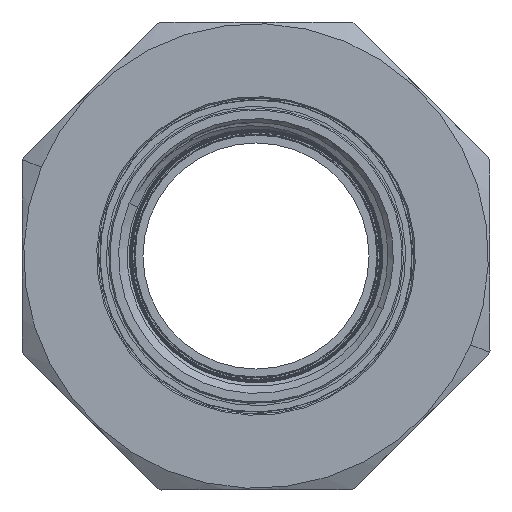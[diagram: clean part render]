
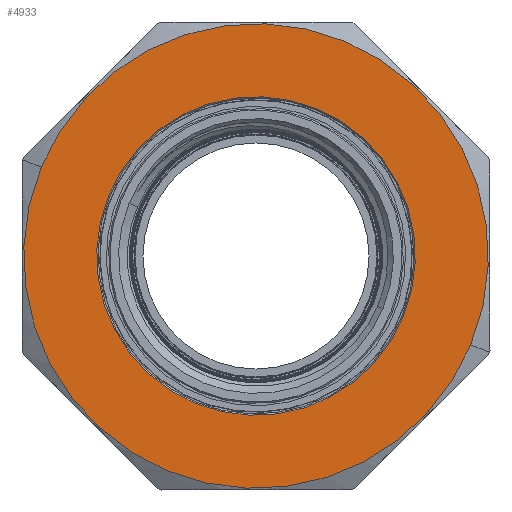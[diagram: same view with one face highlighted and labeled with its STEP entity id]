
A CAD part, left-side view. The second image highlights one B-rep face of the part: STEP entity #4933.
In plain terms, the highlighted planar face has unit normal (-1, 0, 0) as drawn and (1, 0, 0) by its records, which use the part's own axes.
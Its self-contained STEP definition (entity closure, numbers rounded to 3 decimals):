
#530 = EDGE_CURVE ( 'NONE', #4787, #4813, #2907, .T. ) ;
#533 = EDGE_CURVE ( 'NONE', #4780, #4788, #2921, .T. ) ;
#651 = EDGE_CURVE ( 'NONE', #4788, #4780, #12940, .T. ) ;
#660 = EDGE_CURVE ( 'NONE', #4813, #4787, #12904, .T. ) ;
#794 = EDGE_LOOP ( 'NONE', ( #2112, #2091 ) ) ;
#816 = EDGE_LOOP ( 'NONE', ( #2089, #2101 ) ) ;
#2089 = ORIENTED_EDGE ( 'NONE', *, *, #533, .F. ) ;
#2091 = ORIENTED_EDGE ( 'NONE', *, *, #660, .T. ) ;
#2101 = ORIENTED_EDGE ( 'NONE', *, *, #651, .F. ) ;
#2112 = ORIENTED_EDGE ( 'NONE', *, *, #530, .T. ) ;
#2907 = CIRCLE ( 'NONE', #11358, 35.65 ) ;
#2921 = CIRCLE ( 'NONE', #11382, 52. ) ;
#4780 = VERTEX_POINT ( 'NONE', #17775 ) ;
#4787 = VERTEX_POINT ( 'NONE', #17823 ) ;
#4788 = VERTEX_POINT ( 'NONE', #17799 ) ;
#4813 = VERTEX_POINT ( 'NONE', #17798 ) ;
#4933 = ADVANCED_FACE ( 'NONE', ( #13178, #13214 ), #19100, .F. ) ;
#11119 = DIRECTION ( 'NONE',  ( -1., 0., 0. ) ) ;
#11124 = CARTESIAN_POINT ( 'NONE',  ( 16.5, 0., 0. ) ) ;
#11125 = CARTESIAN_POINT ( 'NONE',  ( 16.5, 0., 0. ) ) ;
#11141 = DIRECTION ( 'NONE',  ( 0., 0., 1. ) ) ;
#11144 = DIRECTION ( 'NONE',  ( 0., 0., 1. ) ) ;
#11152 = DIRECTION ( 'NONE',  ( -1., 0., 0. ) ) ;
#11358 = AXIS2_PLACEMENT_3D ( 'NONE', #11124, #11119, #11141 ) ;
#11382 = AXIS2_PLACEMENT_3D ( 'NONE', #11125, #11152, #11144 ) ;
#11405 = AXIS2_PLACEMENT_3D ( 'NONE', #12602, #12589, #12551 ) ;
#11432 = AXIS2_PLACEMENT_3D ( 'NONE', #12690, #12683, #12680 ) ;
#11526 = AXIS2_PLACEMENT_3D ( 'NONE', #19121, #19099, #19085 ) ;
#12551 = DIRECTION ( 'NONE',  ( 0., 0., 1. ) ) ;
#12589 = DIRECTION ( 'NONE',  ( -1., 0., 0. ) ) ;
#12602 = CARTESIAN_POINT ( 'NONE',  ( 16.5, 0., 0. ) ) ;
#12680 = DIRECTION ( 'NONE',  ( 0., 0., 1. ) ) ;
#12683 = DIRECTION ( 'NONE',  ( -1., 0., 0. ) ) ;
#12690 = CARTESIAN_POINT ( 'NONE',  ( 16.5, 0., 0. ) ) ;
#12904 = CIRCLE ( 'NONE', #11432, 35.65 ) ;
#12940 = CIRCLE ( 'NONE', #11405, 52. ) ;
#13178 = FACE_BOUND ( 'NONE', #794, .T. ) ;
#13214 = FACE_OUTER_BOUND ( 'NONE', #816, .T. ) ;
#17775 = CARTESIAN_POINT ( 'NONE',  ( 16.5, 0., 52. ) ) ;
#17798 = CARTESIAN_POINT ( 'NONE',  ( 16.5, 0., 35.65 ) ) ;
#17799 = CARTESIAN_POINT ( 'NONE',  ( 16.5, 0., -52. ) ) ;
#17823 = CARTESIAN_POINT ( 'NONE',  ( 16.5, 0., -35.65 ) ) ;
#19085 = DIRECTION ( 'NONE',  ( 0., 0., 1. ) ) ;
#19099 = DIRECTION ( 'NONE',  ( -1., 0., 0. ) ) ;
#19100 = PLANE ( 'NONE',  #11526 ) ;
#19121 = CARTESIAN_POINT ( 'NONE',  ( 16.5, 35.35, 0. ) ) ;
